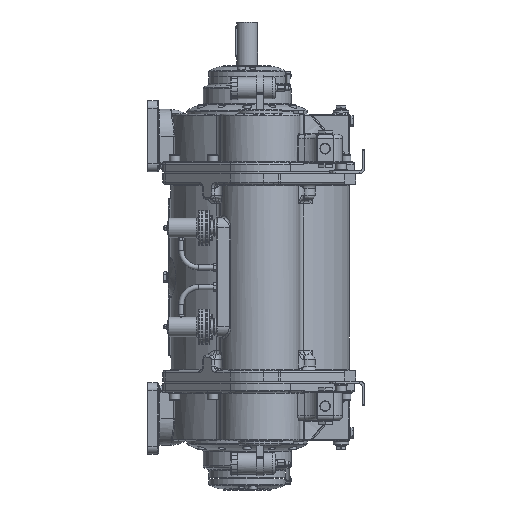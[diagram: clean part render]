
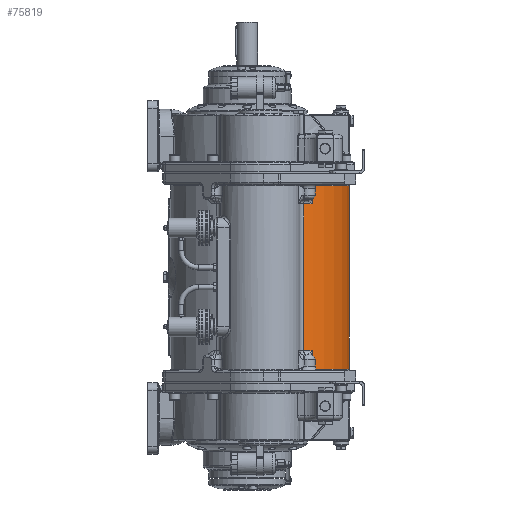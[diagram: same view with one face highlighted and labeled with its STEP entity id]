
A CAD part, front view. The second image highlights one B-rep face of the part: STEP entity #75819.
In plain terms, the highlighted cylindrical face has radius 205.5 mm (diameter 411 mm), a partial arc.
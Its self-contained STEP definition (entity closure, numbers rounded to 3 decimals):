
#5242=FACE_OUTER_BOUND('',#9699,.T.);
#9699=EDGE_LOOP('',(#48814,#48815,#48816,#48817,#48818,#48819,#48820,#48821,
#48822,#48823,#48824,#48825,#48826,#48827));
#14503=B_SPLINE_CURVE_WITH_KNOTS('',3,(#108516,#108517,#108518,#108519,
#108520,#108521,#108522),.UNSPECIFIED.,.F.,.F.,(4,1,1,1,4),(0.,0.453,
1.36,2.267,3.174),.UNSPECIFIED.);
#14504=B_SPLINE_CURVE_WITH_KNOTS('',3,(#108530,#108531,#108532,#108533,
#108534,#108535,#108536),.UNSPECIFIED.,.F.,.F.,(4,1,1,1,4),(0.,0.453,
1.36,2.267,3.174),.UNSPECIFIED.);
#16233=CIRCLE('',#80447,205.5);
#16287=CIRCLE('',#80545,205.5);
#16291=CIRCLE('',#80554,205.5);
#16292=CIRCLE('',#80555,205.5);
#16293=CIRCLE('',#80556,205.5);
#16294=CIRCLE('',#80557,205.5);
#19512=LINE('',#108485,#24681);
#19514=LINE('',#108507,#24683);
#19515=LINE('',#108511,#24684);
#19516=LINE('',#108514,#24685);
#19517=LINE('',#108526,#24686);
#19518=LINE('',#108537,#24687);
#24681=VECTOR('',#88223,10.);
#24683=VECTOR('',#88229,10.);
#24684=VECTOR('',#88232,10.);
#24685=VECTOR('',#88235,10.);
#24686=VECTOR('',#88238,10.);
#24687=VECTOR('',#88241,10.);
#29955=VERTEX_POINT('',#107638);
#29956=VERTEX_POINT('',#107642);
#30002=VERTEX_POINT('',#108434);
#30003=VERTEX_POINT('',#108438);
#30006=VERTEX_POINT('',#108484);
#30009=VERTEX_POINT('',#108506);
#30010=VERTEX_POINT('',#108508);
#30011=VERTEX_POINT('',#108510);
#30012=VERTEX_POINT('',#108513);
#30013=VERTEX_POINT('',#108515);
#30014=VERTEX_POINT('',#108523);
#30015=VERTEX_POINT('',#108525);
#30016=VERTEX_POINT('',#108527);
#30017=VERTEX_POINT('',#108529);
#37217=EDGE_CURVE('',#29956,#29955,#16233,.T.);
#37309=EDGE_CURVE('',#30002,#30003,#16287,.T.);
#37314=EDGE_CURVE('',#30003,#30006,#19512,.T.);
#37318=EDGE_CURVE('',#29956,#30009,#19514,.T.);
#37319=EDGE_CURVE('',#30009,#30010,#16291,.T.);
#37320=EDGE_CURVE('',#30010,#30011,#19515,.T.);
#37321=EDGE_CURVE('',#30006,#30011,#16292,.T.);
#37322=EDGE_CURVE('',#30012,#30002,#19516,.T.);
#37323=EDGE_CURVE('',#30013,#30012,#14503,.T.);
#37324=EDGE_CURVE('',#30014,#30013,#16293,.T.);
#37325=EDGE_CURVE('',#30015,#30014,#19517,.T.);
#37326=EDGE_CURVE('',#30015,#30016,#16294,.T.);
#37327=EDGE_CURVE('',#30016,#30017,#14504,.T.);
#37328=EDGE_CURVE('',#30017,#29955,#19518,.T.);
#48814=ORIENTED_EDGE('',*,*,#37217,.F.);
#48815=ORIENTED_EDGE('',*,*,#37318,.T.);
#48816=ORIENTED_EDGE('',*,*,#37319,.T.);
#48817=ORIENTED_EDGE('',*,*,#37320,.T.);
#48818=ORIENTED_EDGE('',*,*,#37321,.F.);
#48819=ORIENTED_EDGE('',*,*,#37314,.F.);
#48820=ORIENTED_EDGE('',*,*,#37309,.F.);
#48821=ORIENTED_EDGE('',*,*,#37322,.F.);
#48822=ORIENTED_EDGE('',*,*,#37323,.F.);
#48823=ORIENTED_EDGE('',*,*,#37324,.F.);
#48824=ORIENTED_EDGE('',*,*,#37325,.F.);
#48825=ORIENTED_EDGE('',*,*,#37326,.T.);
#48826=ORIENTED_EDGE('',*,*,#37327,.T.);
#48827=ORIENTED_EDGE('',*,*,#37328,.T.);
#70193=CYLINDRICAL_SURFACE('',#80553,205.5);
#75819=ADVANCED_FACE('',(#5242),#70193,.T.);
#80447=AXIS2_PLACEMENT_3D('',#107644,#88001,#88002);
#80545=AXIS2_PLACEMENT_3D('',#108440,#88209,#88210);
#80553=AXIS2_PLACEMENT_3D('',#108505,#88227,#88228);
#80554=AXIS2_PLACEMENT_3D('',#108509,#88230,#88231);
#80555=AXIS2_PLACEMENT_3D('',#108512,#88233,#88234);
#80556=AXIS2_PLACEMENT_3D('',#108524,#88236,#88237);
#80557=AXIS2_PLACEMENT_3D('',#108528,#88239,#88240);
#88001=DIRECTION('center_axis',(0.,0.,
1.));
#88002=DIRECTION('ref_axis',(1.,0.,0.));
#88209=DIRECTION('center_axis',(0.,0.,
-1.));
#88210=DIRECTION('ref_axis',(1.,0.,0.));
#88223=DIRECTION('',(0.,0.,1.));
#88227=DIRECTION('center_axis',(0.,0.,
-1.));
#88228=DIRECTION('ref_axis',(0.486,0.874,0.));
#88229=DIRECTION('',(0.,0.,-1.));
#88230=DIRECTION('center_axis',(0.,0.,
-1.));
#88231=DIRECTION('ref_axis',(0.486,0.874,0.));
#88232=DIRECTION('',(0.,0.,-1.));
#88233=DIRECTION('center_axis',(0.,0.,
-1.));
#88234=DIRECTION('ref_axis',(0.514,-0.858,0.));
#88235=DIRECTION('',(0.,0.,-1.));
#88236=DIRECTION('center_axis',(0.,0.,
-1.));
#88237=DIRECTION('ref_axis',(0.493,0.87,0.));
#88238=DIRECTION('',(0.,0.,-1.));
#88239=DIRECTION('center_axis',(0.,0.,
-1.));
#88240=DIRECTION('ref_axis',(0.486,0.874,0.));
#88241=DIRECTION('',(0.,0.,1.));
#107638=CARTESIAN_POINT('',(150.924,166.155,682.2));
#107642=CARTESIAN_POINT('',(150.924,-166.155,682.2));
#107644=CARTESIAN_POINT('Origin',(30.,0.,
682.2));
#108434=CARTESIAN_POINT('',(150.924,166.155,261.2));
#108438=CARTESIAN_POINT('',(150.924,-166.155,261.2));
#108440=CARTESIAN_POINT('Origin',(30.,0.,
261.2));
#108484=CARTESIAN_POINT('',(150.924,-166.155,303.2));
#108485=CARTESIAN_POINT('',(150.924,-166.155,471.7));
#108505=CARTESIAN_POINT('Origin',(30.,0.,
471.7));
#108506=CARTESIAN_POINT('',(150.924,-166.155,640.2));
#108507=CARTESIAN_POINT('',(150.924,-166.155,471.7));
#108508=CARTESIAN_POINT('',(129.971,-179.544,640.2));
#108509=CARTESIAN_POINT('Origin',(30.,0.,
640.2));
#108510=CARTESIAN_POINT('',(129.971,-179.544,303.2));
#108511=CARTESIAN_POINT('',(129.971,-179.544,471.7));
#108512=CARTESIAN_POINT('Origin',(30.,0.,
303.2));
#108513=CARTESIAN_POINT('',(150.924,166.155,283.2));
#108514=CARTESIAN_POINT('',(150.924,166.155,471.7));
#108515=CARTESIAN_POINT('',(134.688,176.835,303.2));
#108516=CARTESIAN_POINT('Ctrl Pts',(134.688,176.835,303.2));
#108517=CARTESIAN_POINT('Ctrl Pts',(135.929,176.101,303.2));
#108518=CARTESIAN_POINT('Ctrl Pts',(139.627,173.86,302.718));
#108519=CARTESIAN_POINT('Ctrl Pts',(145.241,170.195,299.467));
#108520=CARTESIAN_POINT('Ctrl Pts',(149.84,166.953,292.267));
#108521=CARTESIAN_POINT('Ctrl Pts',(150.924,166.155,286.223));
#108522=CARTESIAN_POINT('Ctrl Pts',(150.924,166.155,283.2));
#108523=CARTESIAN_POINT('',(129.971,179.544,303.2));
#108524=CARTESIAN_POINT('Origin',(30.,0.,
303.2));
#108525=CARTESIAN_POINT('',(129.971,179.544,640.2));
#108526=CARTESIAN_POINT('',(129.971,179.544,471.7));
#108527=CARTESIAN_POINT('',(134.688,176.835,640.2));
#108528=CARTESIAN_POINT('Origin',(30.,0.,
640.2));
#108529=CARTESIAN_POINT('',(150.924,166.155,660.2));
#108530=CARTESIAN_POINT('Ctrl Pts',(134.688,176.835,640.2));
#108531=CARTESIAN_POINT('Ctrl Pts',(135.929,176.101,640.2));
#108532=CARTESIAN_POINT('Ctrl Pts',(139.627,173.86,640.682));
#108533=CARTESIAN_POINT('Ctrl Pts',(145.241,170.195,643.933));
#108534=CARTESIAN_POINT('Ctrl Pts',(149.84,166.953,651.133));
#108535=CARTESIAN_POINT('Ctrl Pts',(150.924,166.155,657.177));
#108536=CARTESIAN_POINT('Ctrl Pts',(150.924,166.155,660.2));
#108537=CARTESIAN_POINT('',(150.924,166.155,471.7));
